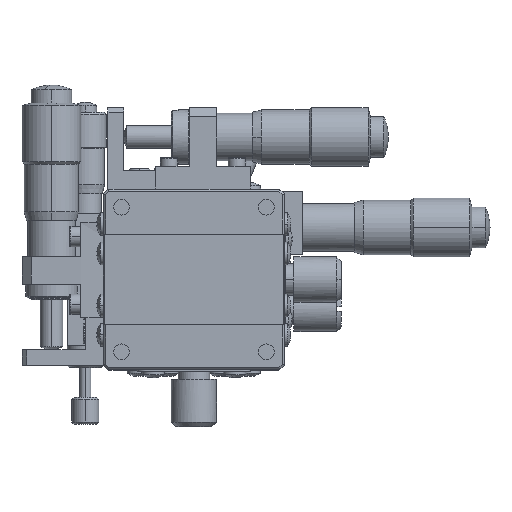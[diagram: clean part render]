
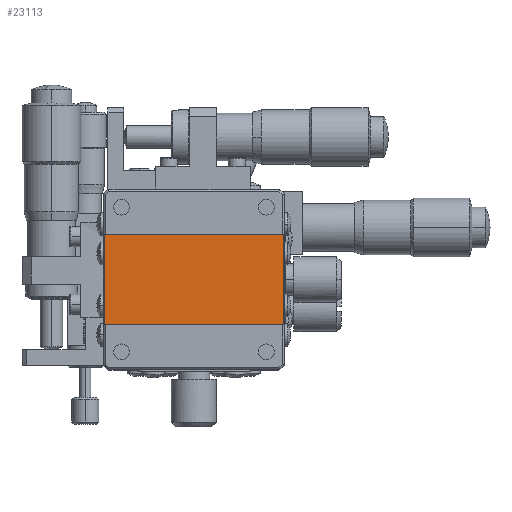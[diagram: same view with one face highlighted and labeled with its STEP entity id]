
A CAD part, front view. The second image highlights one B-rep face of the part: STEP entity #23113.
In plain terms, the highlighted planar face has unit normal (0, 1, 0).
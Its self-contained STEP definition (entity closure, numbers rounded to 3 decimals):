
#278 = CARTESIAN_POINT ( 'NONE',  ( -113.125, -25.852, 10. ) ) ;
#877 = VERTEX_POINT ( 'NONE', #35738 ) ;
#3325 = VERTEX_POINT ( 'NONE', #27550 ) ;
#3661 = EDGE_LOOP ( 'NONE', ( #24748, #6369, #19475, #37370 ) ) ;
#3926 = CARTESIAN_POINT ( 'NONE',  ( -73.525, -25.852, -10. ) ) ;
#4348 = VERTEX_POINT ( 'NONE', #278 ) ;
#6369 = ORIENTED_EDGE ( 'NONE', *, *, #24710, .T. ) ;
#6693 = EDGE_CURVE ( 'NONE', #48108, #3325, #42172, .T. ) ;
#7398 = LINE ( 'NONE', #41146, #7966 ) ;
#7815 = VECTOR ( 'NONE', #31065, 1000. ) ;
#7966 = VECTOR ( 'NONE', #18343, 1000. ) ;
#8460 = DIRECTION ( 'NONE',  ( 0., 0., 1. ) ) ;
#8654 = DIRECTION ( 'NONE',  ( 0., 0., 1. ) ) ;
#10388 = CARTESIAN_POINT ( 'NONE',  ( -73.525, -25.852, 10. ) ) ;
#11809 = AXIS2_PLACEMENT_3D ( 'NONE', #24032, #15993, #8460 ) ;
#12089 = DIRECTION ( 'NONE',  ( 0., 0., -1. ) ) ;
#13387 = LINE ( 'NONE', #35696, #48545 ) ;
#15993 = DIRECTION ( 'NONE',  ( 0., 1., 0. ) ) ;
#16066 = EDGE_CURVE ( 'NONE', #4348, #48108, #7398, .T. ) ;
#18343 = DIRECTION ( 'NONE',  ( 1., 0., 0. ) ) ;
#18937 = FACE_OUTER_BOUND ( 'NONE', #3661, .T. ) ;
#19475 = ORIENTED_EDGE ( 'NONE', *, *, #16066, .T. ) ;
#19880 = CARTESIAN_POINT ( 'NONE',  ( -113.125, -25.852, -10. ) ) ;
#23113 = ADVANCED_FACE ( 'NONE', ( #18937 ), #27532, .T. ) ;
#24032 = CARTESIAN_POINT ( 'NONE',  ( -113.125, -25.852, -10. ) ) ;
#24710 = EDGE_CURVE ( 'NONE', #877, #4348, #13387, .T. ) ;
#24748 = ORIENTED_EDGE ( 'NONE', *, *, #34278, .T. ) ;
#27532 = PLANE ( 'NONE',  #11809 ) ;
#27550 = CARTESIAN_POINT ( 'NONE',  ( -73.525, -25.852, -10. ) ) ;
#31065 = DIRECTION ( 'NONE',  ( -1., 0., 0. ) ) ;
#32064 = VECTOR ( 'NONE', #12089, 1000. ) ;
#34278 = EDGE_CURVE ( 'NONE', #3325, #877, #48334, .T. ) ;
#35696 = CARTESIAN_POINT ( 'NONE',  ( -113.125, -25.852, -10. ) ) ;
#35738 = CARTESIAN_POINT ( 'NONE',  ( -113.125, -25.852, -10. ) ) ;
#37370 = ORIENTED_EDGE ( 'NONE', *, *, #6693, .T. ) ;
#41146 = CARTESIAN_POINT ( 'NONE',  ( -113.125, -25.852, 10. ) ) ;
#42172 = LINE ( 'NONE', #3926, #32064 ) ;
#48108 = VERTEX_POINT ( 'NONE', #10388 ) ;
#48334 = LINE ( 'NONE', #19880, #7815 ) ;
#48545 = VECTOR ( 'NONE', #8654, 1000. ) ;
